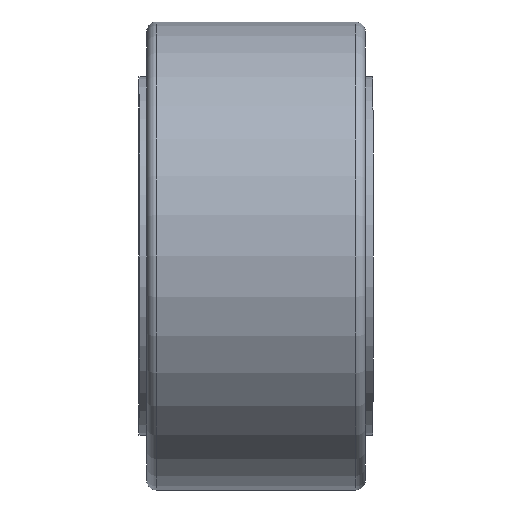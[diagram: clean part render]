
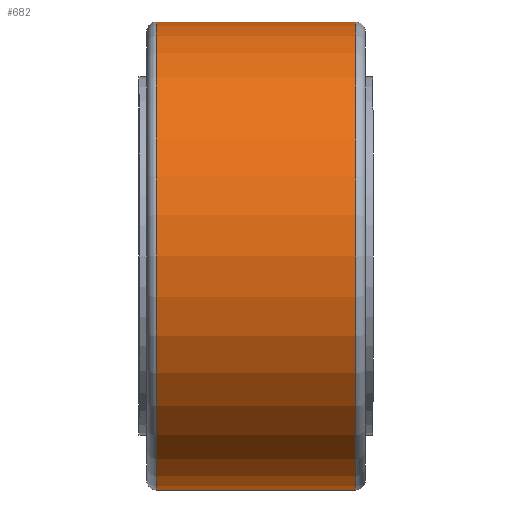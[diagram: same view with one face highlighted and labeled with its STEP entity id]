
A CAD part, front view. The second image highlights one B-rep face of the part: STEP entity #682.
In plain terms, the highlighted cylindrical face has radius 15 mm (diameter 30 mm), a full revolution.
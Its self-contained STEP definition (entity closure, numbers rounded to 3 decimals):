
#259=CIRCLE('',#866,15.);
#261=CIRCLE('',#869,15.);
#308=FACE_BOUND('',#428,.T.);
#352=FACE_OUTER_BOUND('',#427,.T.);
#427=EDGE_LOOP('',(#605));
#428=EDGE_LOOP('',(#606));
#485=VERTEX_POINT('',#1372);
#487=VERTEX_POINT('',#1377);
#529=EDGE_CURVE('',#485,#485,#259,.T.);
#531=EDGE_CURVE('',#487,#487,#261,.T.);
#605=ORIENTED_EDGE('',*,*,#531,.F.);
#606=ORIENTED_EDGE('',*,*,#529,.F.);
#645=CYLINDRICAL_SURFACE('',#868,15.);
#682=ADVANCED_FACE('',(#352,#308),#645,.T.);
#866=AXIS2_PLACEMENT_3D('',#1373,#1067,#1068);
#868=AXIS2_PLACEMENT_3D('',#1376,#1071,#1072);
#869=AXIS2_PLACEMENT_3D('',#1378,#1073,#1074);
#1067=DIRECTION('center_axis',(1.,0.,0.));
#1068=DIRECTION('ref_axis',(0.,-1.,0.));
#1071=DIRECTION('center_axis',(1.,0.,0.));
#1072=DIRECTION('ref_axis',(0.,1.,0.));
#1073=DIRECTION('center_axis',(-1.,0.,0.));
#1074=DIRECTION('ref_axis',(0.,-1.,0.));
#1372=CARTESIAN_POINT('',(6.4,15.,0.));
#1373=CARTESIAN_POINT('Origin',(6.4,0.,0.));
#1376=CARTESIAN_POINT('Origin',(0.,0.,
0.));
#1377=CARTESIAN_POINT('',(-6.4,15.,0.));
#1378=CARTESIAN_POINT('Origin',(-6.4,0.,0.));
